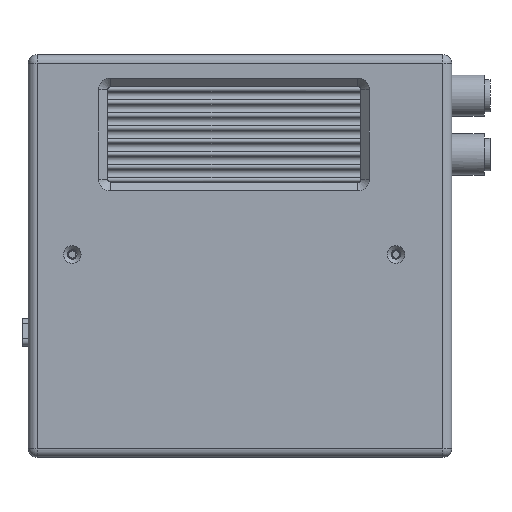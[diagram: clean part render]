
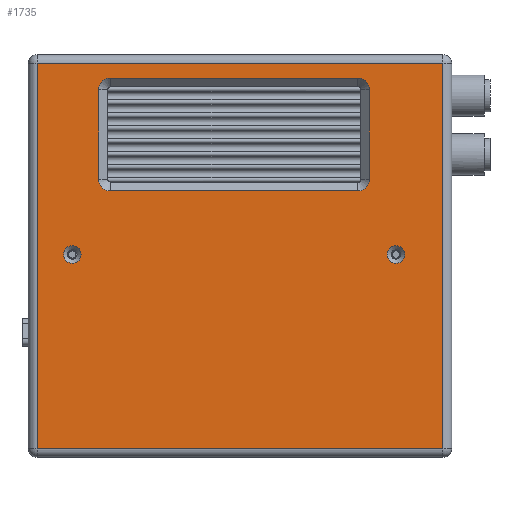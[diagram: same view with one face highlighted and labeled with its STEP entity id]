
A CAD part, front view. The second image highlights one B-rep face of the part: STEP entity #1735.
In plain terms, the highlighted planar face has unit normal (0, -1, 0).
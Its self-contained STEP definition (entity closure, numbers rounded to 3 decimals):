
#1735 = ADVANCED_FACE( '', ( #3719, #3720, #3721, #3722 ), #3723, .T. );
#3719 = FACE_OUTER_BOUND( '', #5784, .T. );
#3720 = FACE_BOUND( '', #5785, .T. );
#3721 = FACE_BOUND( '', #5786, .T. );
#3722 = FACE_BOUND( '', #5787, .T. );
#3723 = PLANE( '', #5788 );
#5784 = EDGE_LOOP( '', ( #10341, #10342, #10343, #10344 ) );
#5785 = EDGE_LOOP( '', ( #10345 ) );
#5786 = EDGE_LOOP( '', ( #10346 ) );
#5787 = EDGE_LOOP( '', ( #10347, #10348, #10349, #10350, #10351, #10352, #10353, #10354 ) );
#5788 = AXIS2_PLACEMENT_3D( '', #10355, #10356, #10357 );
#10341 = ORIENTED_EDGE( '', *, *, #11900, .T. );
#10342 = ORIENTED_EDGE( '', *, *, #12365, .T. );
#10343 = ORIENTED_EDGE( '', *, *, #11567, .T. );
#10344 = ORIENTED_EDGE( '', *, *, #12064, .T. );
#10345 = ORIENTED_EDGE( '', *, *, #10819, .F. );
#10346 = ORIENTED_EDGE( '', *, *, #11024, .F. );
#10347 = ORIENTED_EDGE( '', *, *, #12155, .T. );
#10348 = ORIENTED_EDGE( '', *, *, #11452, .T. );
#10349 = ORIENTED_EDGE( '', *, *, #11960, .T. );
#10350 = ORIENTED_EDGE( '', *, *, #11935, .T. );
#10351 = ORIENTED_EDGE( '', *, *, #12135, .T. );
#10352 = ORIENTED_EDGE( '', *, *, #11780, .T. );
#10353 = ORIENTED_EDGE( '', *, *, #11809, .T. );
#10354 = ORIENTED_EDGE( '', *, *, #11596, .T. );
#10355 = CARTESIAN_POINT( '', ( 64.84, -63.382, -5.77 ) );
#10356 = DIRECTION( '', ( 0., -1., 0. ) );
#10357 = DIRECTION( '', ( -1., 0., 0. ) );
#10819 = EDGE_CURVE( '', #12693, #12693, #12694, .T. );
#11024 = EDGE_CURVE( '', #13050, #13050, #13051, .T. );
#11452 = EDGE_CURVE( '', #13747, #13745, #13748, .T. );
#11567 = EDGE_CURVE( '', #13911, #13630, #13914, .T. );
#11596 = EDGE_CURVE( '', #13951, #13958, #13960, .T. );
#11780 = EDGE_CURVE( '', #14217, #14215, #14218, .T. );
#11809 = EDGE_CURVE( '', #14215, #13951, #14253, .T. );
#11900 = EDGE_CURVE( '', #14374, #13405, #14376, .T. );
#11935 = EDGE_CURVE( '', #14425, #14423, #14426, .T. );
#11960 = EDGE_CURVE( '', #13745, #14425, #14459, .T. );
#12064 = EDGE_CURVE( '', #13630, #14374, #14590, .T. );
#12135 = EDGE_CURVE( '', #14423, #14217, #14674, .T. );
#12155 = EDGE_CURVE( '', #13958, #13747, #14696, .T. );
#12365 = EDGE_CURVE( '', #13405, #13911, #14931, .T. );
#12693 = VERTEX_POINT( '', #15320 );
#12694 = CIRCLE( '', #15321, 3. );
#13050 = VERTEX_POINT( '', #15819 );
#13051 = CIRCLE( '', #15820, 3. );
#13405 = VERTEX_POINT( '', #16363 );
#13630 = VERTEX_POINT( '', #16660 );
#13745 = VERTEX_POINT( '', #16828 );
#13747 = VERTEX_POINT( '', #16831 );
#13748 = LINE( '', #16832, #16833 );
#13911 = VERTEX_POINT( '', #17046 );
#13914 = LINE( '', #17050, #17051 );
#13951 = VERTEX_POINT( '', #17098 );
#13958 = VERTEX_POINT( '', #17108 );
#13960 = LINE( '', #17111, #17112 );
#14215 = VERTEX_POINT( '', #17550 );
#14217 = VERTEX_POINT( '', #17553 );
#14218 = LINE( '', #17554, #17555 );
#14253 = CIRCLE( '', #17629, 4. );
#14374 = VERTEX_POINT( '', #17790 );
#14376 = LINE( '', #17792, #17793 );
#14423 = VERTEX_POINT( '', #17886 );
#14425 = VERTEX_POINT( '', #17889 );
#14426 = LINE( '', #17890, #17891 );
#14459 = CIRCLE( '', #17932, 4. );
#14590 = LINE( '', #18108, #18109 );
#14674 = CIRCLE( '', #18230, 4. );
#14696 = CIRCLE( '', #18258, 4. );
#14931 = LINE( '', #18552, #18553 );
#15320 = CARTESIAN_POINT( '', ( -63.16, -63.382, -19.27 ) );
#15321 = AXIS2_PLACEMENT_3D( '', #18876, #18877, #18878 );
#15819 = CARTESIAN_POINT( '', ( 46.84, -63.382, -19.27 ) );
#15820 = AXIS2_PLACEMENT_3D( '', #19156, #19157, #19158 );
#16363 = CARTESIAN_POINT( '', ( 65.84, -63.382, -85.27 ) );
#16660 = CARTESIAN_POINT( '', ( -72.16, -63.382, 45.73 ) );
#16828 = CARTESIAN_POINT( '', ( -51.16, -63.382, 36.73 ) );
#16831 = CARTESIAN_POINT( '', ( -51.16, -63.382, 6.33 ) );
#16832 = CARTESIAN_POINT( '', ( -51.16, -63.382, -12.27 ) );
#16833 = VECTOR( '', #19739, 1000. );
#17046 = CARTESIAN_POINT( '', ( 65.84, -63.382, 45.73 ) );
#17050 = CARTESIAN_POINT( '', ( -75.16, -63.382, 45.73 ) );
#17051 = VECTOR( '', #19878, 1000. );
#17098 = CARTESIAN_POINT( '', ( 36.84, -63.382, 2.33 ) );
#17108 = CARTESIAN_POINT( '', ( -47.16, -63.382, 2.33 ) );
#17111 = CARTESIAN_POINT( '', ( 59.84, -63.382, 2.33 ) );
#17112 = VECTOR( '', #19911, 1000. );
#17550 = CARTESIAN_POINT( '', ( 40.84, -63.382, 6.33 ) );
#17553 = CARTESIAN_POINT( '', ( 40.84, -63.382, 36.73 ) );
#17554 = CARTESIAN_POINT( '', ( 40.84, -63.382, -12.27 ) );
#17555 = VECTOR( '', #20160, 1000. );
#17629 = AXIS2_PLACEMENT_3D( '', #20183, #20184, #20185 );
#17790 = CARTESIAN_POINT( '', ( -72.16, -63.382, -85.27 ) );
#17792 = CARTESIAN_POINT( '', ( 68.84, -63.382, -85.27 ) );
#17793 = VECTOR( '', #20289, 1000. );
#17886 = CARTESIAN_POINT( '', ( 36.84, -63.382, 40.73 ) );
#17889 = CARTESIAN_POINT( '', ( -47.16, -63.382, 40.73 ) );
#17890 = CARTESIAN_POINT( '', ( 59.84, -63.382, 40.73 ) );
#17891 = VECTOR( '', #20320, 1000. );
#17932 = AXIS2_PLACEMENT_3D( '', #20350, #20351, #20352 );
#18108 = CARTESIAN_POINT( '', ( -72.16, -63.382, -88.27 ) );
#18109 = VECTOR( '', #20490, 1000. );
#18230 = AXIS2_PLACEMENT_3D( '', #20560, #20561, #20562 );
#18258 = AXIS2_PLACEMENT_3D( '', #20581, #20582, #20583 );
#18552 = CARTESIAN_POINT( '', ( 65.84, -63.382, -15.77 ) );
#18553 = VECTOR( '', #20740, 1000. );
#18876 = CARTESIAN_POINT( '', ( -60.16, -63.382, -19.27 ) );
#18877 = DIRECTION( '', ( 0., -1., 0. ) );
#18878 = DIRECTION( '', ( -1., 0., 0. ) );
#19156 = CARTESIAN_POINT( '', ( 49.84, -63.382, -19.27 ) );
#19157 = DIRECTION( '', ( 0., -1., 0. ) );
#19158 = DIRECTION( '', ( -1., 0., 0. ) );
#19739 = DIRECTION( '', ( 0., 0., 1. ) );
#19878 = DIRECTION( '', ( -1., 0., 0. ) );
#19911 = DIRECTION( '', ( -1., 0., 0. ) );
#20160 = DIRECTION( '', ( 0., 0., -1. ) );
#20183 = CARTESIAN_POINT( '', ( 36.84, -63.382, 6.33 ) );
#20184 = DIRECTION( '', ( 0., 1., 0. ) );
#20185 = DIRECTION( '', ( 0., 0., 1. ) );
#20289 = DIRECTION( '', ( 1., 0., 0. ) );
#20320 = DIRECTION( '', ( 1., 0., 0. ) );
#20350 = CARTESIAN_POINT( '', ( -47.16, -63.382, 36.73 ) );
#20351 = DIRECTION( '', ( 0., 1., 0. ) );
#20352 = DIRECTION( '', ( 0., 0., 1. ) );
#20490 = DIRECTION( '', ( 0., 0., -1. ) );
#20560 = CARTESIAN_POINT( '', ( 36.84, -63.382, 36.73 ) );
#20561 = DIRECTION( '', ( 0., 1., 0. ) );
#20562 = DIRECTION( '', ( 0., 0., 1. ) );
#20581 = CARTESIAN_POINT( '', ( -47.16, -63.382, 6.33 ) );
#20582 = DIRECTION( '', ( 0., 1., 0. ) );
#20583 = DIRECTION( '', ( 0., 0., 1. ) );
#20740 = DIRECTION( '', ( 0., 0., 1. ) );
